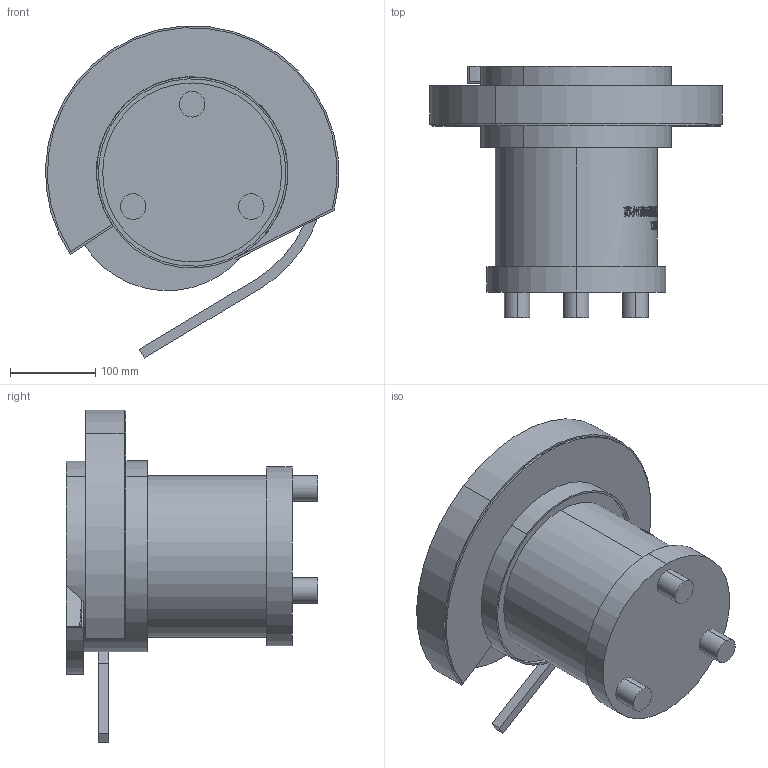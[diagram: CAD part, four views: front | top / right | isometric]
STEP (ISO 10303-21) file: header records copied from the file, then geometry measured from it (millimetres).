
FILE_DESCRIPTION (( 'STEP AP203' ), '1' );
FILE_NAME ('200欄奀渀淥雄攫.STEP', '2024-09-16T07:12:45', ( '' ), ( '' ), 'SwSTEP 2.0', 'SolidWorks 2017', '' );
FILE_SCHEMA (( 'CONFIG_CONTROL_DESIGN' ));
Products named in the file (3): 200欄奀渀淥雄攫; 200欄奀渀階攫; 200菁釱
Assembly tree (2 placements, depth 2):
  200欄奀渀淥雄攫
    200菁釱
    200欄奀渀階攫
Bounding box: 343.63 x 295 x 389.51 mm (x, y, z)
Volume: 5783490.7 mm3; surface area: 640478.4 mm2
Topology: 4 solids, 4 shells, 923 faces, 2505 edges, 1667 vertices
Faces by surface type: bspline 552, plane 262, cylinder 109
Entity records: 104667 total; most frequent: CARTESIAN_POINT 85980, ORIENTED_EDGE 5010, EDGE_CURVE 2505, B_SPLINE_CURVE_WITH_KNOTS 1783, DIRECTION 1780, VERTEX_POINT 1667, EDGE_LOOP 1002, ADVANCED_FACE 923
